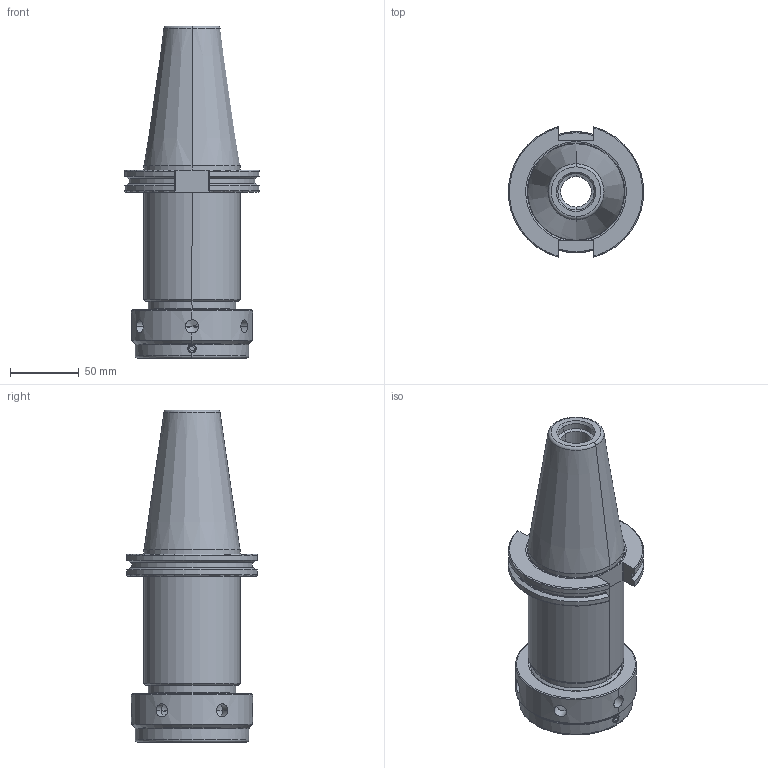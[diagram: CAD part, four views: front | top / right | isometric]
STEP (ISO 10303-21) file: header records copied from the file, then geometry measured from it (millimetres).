
FILE_DESCRIPTION (( 'STEP AP214' ), '1' );
FILE_NAME ('RC5TG155500.STEP', '2019-02-05T17:46:16', ( '' ), ( '' ), 'SwSTEP 2.0', 'SolidWorks 2019', '' );
FILE_SCHEMA (( 'AUTOMOTIVE_DESIGN' ));
Length unit declared in the file: inch
Products named in the file (1): RC5TG155500
Bounding box: 98.05 x 94.95 x 241.3 mm (x, y, z)
Volume: 578898.4 mm3; surface area: 118939.4 mm2
Topology: 46 solids, 46 shells, 305 faces, 816 edges, 513 vertices
Faces by surface type: sphere 84, cylinder 70, cone 65, torus 49, plane 37
Entity records: 13007 total; most frequent: CARTESIAN_POINT 2007, DIRECTION 1477, ORIENTED_EDGE 1180, AXIS2_PLACEMENT_3D 641, EDGE_CURVE 590, VERTEX_POINT 387, UNCERTAINTY_MEASURE_WITH_UNIT 353, LENGTH_MEASURE_WITH_UNIT 353
